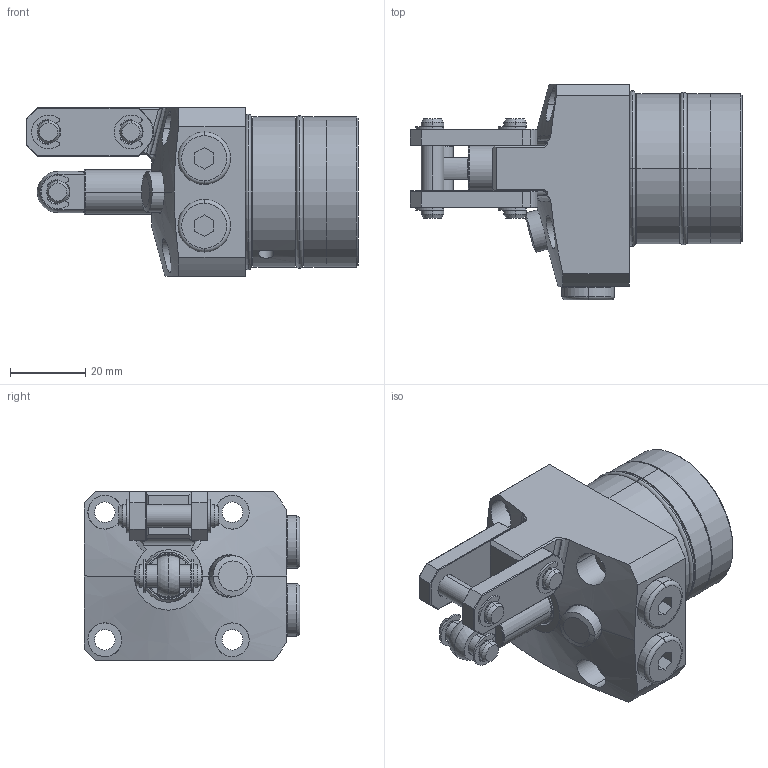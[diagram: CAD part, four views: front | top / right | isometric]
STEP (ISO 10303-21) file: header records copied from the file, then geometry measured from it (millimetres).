
FILE_DESCRIPTION(/* description */ (''),/* implementation_level */ '2;1');
FILE_NAME(/* name */ 'KTPW40-RH_stp.stp',/* time_stamp */ '2022-11-19T16:31:28+08:00',/* author */ (''),/* organization */ (''),/* preprocessor_version */ 'ST-DEVELOPER v16.7',/* originating_system */ 'SIEMENS PLM Software NX 12.0',/* authorisation */ '');
FILE_SCHEMA (('AP203_CONFIGURATION_CONTROLLED_3D_DESIGN_OF_MECHANICAL_PARTS_AND_ASSEMBLIES_MIM_LF { 1 0 10303 403 2 1 2}'));
Length unit declared in the file: millimetre
Products named in the file (11): KTPW40-RH-01; KTPW40-RH-09; KTPW40-RH-08; KTPW40-RH-02; KTPW40-RH-06; KTPW40-RH-04; KTPW40-RH-07; KTPW40-RH-05; KTPW40-RH-010; KTPW40-RH-03; KTPC40-RH_stp
Assembly tree (19 placements, depth 2):
  KTPC40-RH_stp
    KTPW40-RH-03
    KTPW40-RH-010  x2
    KTPW40-RH-05  x2
    KTPW40-RH-07  x6
    KTPW40-RH-04  x2
    KTPW40-RH-06
    KTPW40-RH-02
    KTPW40-RH-08  x2
    KTPW40-RH-09
    KTPW40-RH-01
Bounding box: 88.5 x 57.5 x 45 mm (x, y, z)
Volume: 96718.4 mm3; surface area: 28574.6 mm2
Topology: 21 solids, 21 shells, 664 faces, 1540 edges, 953 vertices
Faces by surface type: cylinder 263, plane 195, torus 114, cone 80, bspline 10, sphere 2
Full cylindrical faces by diameter (mm): 40 x1
Entity records: 13153 total; most frequent: CARTESIAN_POINT 2873, DIRECTION 2025, ORIENTED_EDGE 1690, AXIS2_PLACEMENT_3D 855, EDGE_CURVE 845, VERTEX_POINT 514, CIRCLE 461, EDGE_LOOP 437
